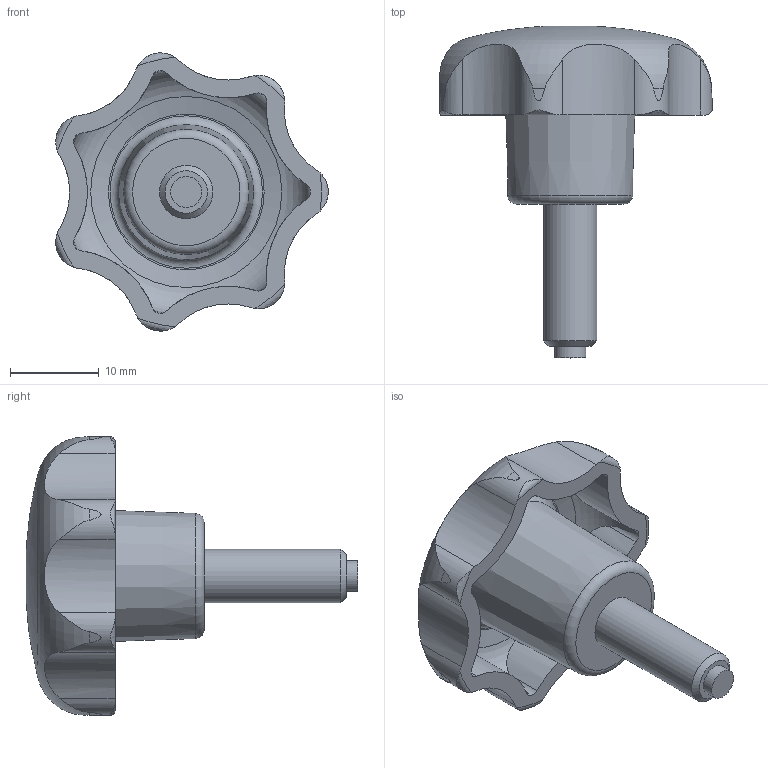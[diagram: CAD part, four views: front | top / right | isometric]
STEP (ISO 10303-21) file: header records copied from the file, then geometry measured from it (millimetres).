
FILE_DESCRIPTION( ( 'STEP AP203' ), '1' );
FILE_NAME( 'C:/Temp/Ganter_Step_05_03_2020/data/2_2/gn6336_10/Star knob GN 6336.10-32-M6-16-KU.stp', '2020-03-05T12:04:21', ( 'License CC BY-ND 4.0' ), ( 'CADENAS' ), ' ', 'PARTsolutions', ' ' );
FILE_SCHEMA( ( 'CONFIG_CONTROL_DESIGN' ) );
Length unit declared in the file: millimetre
Products named in the file (1): _Star knob GN 6336.10-32-M6-16-KU
Bounding box: 30.63 x 37.32 x 31.27 mm (x, y, z)
Volume: 5851 mm3; surface area: 3608.1 mm2
Topology: 1 solids, 1 shells, 65 faces, 189 edges, 128 vertices
Faces by surface type: cylinder 30, cone 17, torus 13, plane 4, bspline 1
Full cylindrical faces by diameter (mm): 3.5 x1, 6 x1
Entity records: 3035 total; most frequent: CARTESIAN_POINT 1421, ORIENTED_EDGE 348, DIRECTION 296, EDGE_CURVE 174, AXIS2_PLACEMENT_3D 134, VERTEX_POINT 125, EDGE_LOOP 78, B_SPLINE_CURVE_WITH_KNOTS 77
